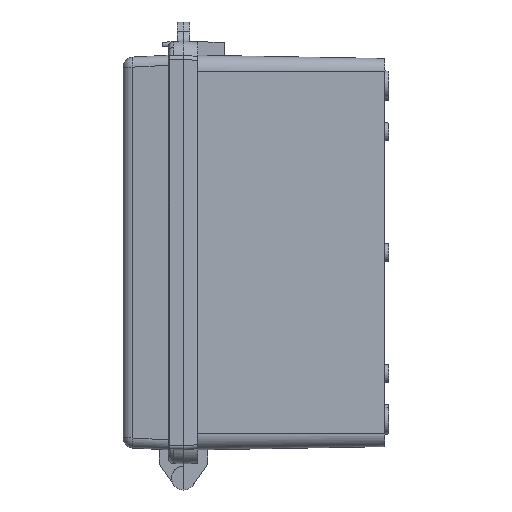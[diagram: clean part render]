
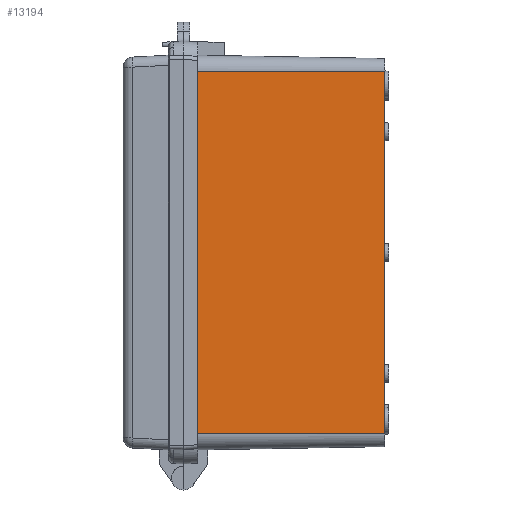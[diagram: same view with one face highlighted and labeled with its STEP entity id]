
A CAD part, left-side view. The second image highlights one B-rep face of the part: STEP entity #13194.
In plain terms, the highlighted planar face has unit normal (-1, -0.018, 0).
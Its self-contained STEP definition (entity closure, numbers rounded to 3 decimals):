
#416 = ORIENTED_EDGE ( 'NONE', *, *, #15612, .T. ) ;
#474 = VERTEX_POINT ( 'NONE', #12934 ) ;
#493 = ORIENTED_EDGE ( 'NONE', *, *, #18895, .T. ) ;
#581 = VERTEX_POINT ( 'NONE', #2179 ) ;
#612 = CARTESIAN_POINT ( 'NONE',  ( -98.07, -3., -99.993 ) ) ;
#626 = DIRECTION ( 'NONE',  ( 0., 0., -1. ) ) ;
#1004 = LINE ( 'NONE', #12498, #9282 ) ;
#1172 = ORIENTED_EDGE ( 'NONE', *, *, #9999, .T. ) ;
#1448 = CARTESIAN_POINT ( 'NONE',  ( -98., -7., -99.993 ) ) ;
#1619 = CARTESIAN_POINT ( 'NONE',  ( -98.07, -3., -78.6 ) ) ;
#1630 = CARTESIAN_POINT ( 'NONE',  ( -96.377, -100., 90.071 ) ) ;
#2047 = CARTESIAN_POINT ( 'NONE',  ( -98.07, -3., 90.071 ) ) ;
#2150 = DIRECTION ( 'NONE',  ( 0., 0., -1. ) ) ;
#2157 = ORIENTED_EDGE ( 'NONE', *, *, #8445, .T. ) ;
#2179 = CARTESIAN_POINT ( 'NONE',  ( -98.07, -3., -81.4 ) ) ;
#2875 = CARTESIAN_POINT ( 'NONE',  ( -98., -7., -81.05 ) ) ;
#2908 = EDGE_LOOP ( 'NONE', ( #3065, #3577, #13474, #6280, #7357, #20736, #1172, #15223, #13137, #416, #4181, #493, #10438, #8963, #2157, #16134 ) ) ;
#2913 = VERTEX_POINT ( 'NONE', #7591 ) ;
#2942 = CARTESIAN_POINT ( 'NONE',  ( -98.037, -4.857, -78.762 ) ) ;
#3049 = LINE ( 'NONE', #16117, #14544 ) ;
#3065 = ORIENTED_EDGE ( 'NONE', *, *, #14580, .T. ) ;
#3577 = ORIENTED_EDGE ( 'NONE', *, *, #4941, .T. ) ;
#4035 = DIRECTION ( 'NONE',  ( 0., 0., -1. ) ) ;
#4181 = ORIENTED_EDGE ( 'NONE', *, *, #6648, .T. ) ;
#4206 = VERTEX_POINT ( 'NONE', #18073 ) ;
#4688 = DIRECTION ( 'NONE',  ( 0., 0., -1. ) ) ;
#4690 = LINE ( 'NONE', #16355, #7332 ) ;
#4734 = DIRECTION ( 'NONE',  ( 0.017, -1., 0. ) ) ;
#4769 = FACE_OUTER_BOUND ( 'NONE', #2908, .T. ) ;
#4941 = EDGE_CURVE ( 'NONE', #12289, #581, #1004, .T. ) ;
#4959 = CARTESIAN_POINT ( 'NONE',  ( -98.07, -3., 1.4 ) ) ;
#5492 = DIRECTION ( 'NONE',  ( -0.017, 1., 0. ) ) ;
#5610 = LINE ( 'NONE', #20274, #15872 ) ;
#5702 = VECTOR ( 'NONE', #4035, 1000. ) ;
#5709 = DIRECTION ( 'NONE',  ( 0., 0., -1. ) ) ;
#6117 = CARTESIAN_POINT ( 'NONE',  ( -98.07, -3., -1.4 ) ) ;
#6280 = ORIENTED_EDGE ( 'NONE', *, *, #17613, .T. ) ;
#6480 = DIRECTION ( 'NONE',  ( 0.017, -0.996, -0.087 ) ) ;
#6648 = EDGE_CURVE ( 'NONE', #4206, #12103, #18444, .T. ) ;
#6790 = CARTESIAN_POINT ( 'NONE',  ( -98.07, -3., -99.993 ) ) ;
#6830 = CARTESIAN_POINT ( 'NONE',  ( -96.377, -100., -99.993 ) ) ;
#6967 = CARTESIAN_POINT ( 'NONE',  ( -97.795, -18.745, 80.022 ) ) ;
#7204 = CARTESIAN_POINT ( 'NONE',  ( -98.07, -3., 81.4 ) ) ;
#7332 = VECTOR ( 'NONE', #20948, 1000. ) ;
#7357 = ORIENTED_EDGE ( 'NONE', *, *, #11365, .F. ) ;
#7591 = CARTESIAN_POINT ( 'NONE',  ( -98., -7., 1.05 ) ) ;
#8292 = DIRECTION ( 'NONE',  ( 0., 0., -1. ) ) ;
#8351 = VERTEX_POINT ( 'NONE', #1619 ) ;
#8445 = EDGE_CURVE ( 'NONE', #19354, #8351, #20331, .T. ) ;
#8574 = EDGE_CURVE ( 'NONE', #9542, #19354, #4690, .T. ) ;
#8657 = LINE ( 'NONE', #6830, #18040 ) ;
#8925 = VECTOR ( 'NONE', #9483, 1000. ) ;
#8963 = ORIENTED_EDGE ( 'NONE', *, *, #8574, .T. ) ;
#9282 = VECTOR ( 'NONE', #19014, 1000. ) ;
#9483 = DIRECTION ( 'NONE',  ( 0.017, -0.996, -0.087 ) ) ;
#9542 = VERTEX_POINT ( 'NONE', #13323 ) ;
#9588 = VECTOR ( 'NONE', #4688, 1000. ) ;
#9611 = VERTEX_POINT ( 'NONE', #7204 ) ;
#9693 = DIRECTION ( 'NONE',  ( 0.017, -1., 0. ) ) ;
#9999 = EDGE_CURVE ( 'NONE', #19305, #9611, #10389, .T. ) ;
#10389 = LINE ( 'NONE', #612, #13890 ) ;
#10438 = ORIENTED_EDGE ( 'NONE', *, *, #20881, .T. ) ;
#11297 = CARTESIAN_POINT ( 'NONE',  ( -98.07, -3., -99.993 ) ) ;
#11365 = EDGE_CURVE ( 'NONE', #16001, #11633, #8657, .T. ) ;
#11406 = CARTESIAN_POINT ( 'NONE',  ( -97.916, -11.801, 0.63 ) ) ;
#11471 = EDGE_CURVE ( 'NONE', #15532, #474, #15591, .T. ) ;
#11633 = VERTEX_POINT ( 'NONE', #20416 ) ;
#11694 = DIRECTION ( 'NONE',  ( 0.017, -0.996, -0.087 ) ) ;
#11766 = DIRECTION ( 'NONE',  ( 0., 0., -1. ) ) ;
#11831 = EDGE_CURVE ( 'NONE', #16001, #19305, #20265, .T. ) ;
#11903 = LINE ( 'NONE', #13406, #15654 ) ;
#12084 = CARTESIAN_POINT ( 'NONE',  ( -98., -7., -99.993 ) ) ;
#12103 = VERTEX_POINT ( 'NONE', #4959 ) ;
#12220 = EDGE_CURVE ( 'NONE', #581, #15831, #11903, .T. ) ;
#12226 = VERTEX_POINT ( 'NONE', #16601 ) ;
#12245 = VECTOR ( 'NONE', #5492, 1000. ) ;
#12289 = VERTEX_POINT ( 'NONE', #2875 ) ;
#12498 = CARTESIAN_POINT ( 'NONE',  ( -98.098, -1.386, -81.541 ) ) ;
#12934 = CARTESIAN_POINT ( 'NONE',  ( -98., -7., 78.95 ) ) ;
#12971 = AXIS2_PLACEMENT_3D ( 'NONE', #11297, #14198, #9693 ) ;
#13137 = ORIENTED_EDGE ( 'NONE', *, *, #11471, .T. ) ;
#13194 = ADVANCED_FACE ( 'NONE', ( #4769 ), #16321, .T. ) ;
#13305 = LINE ( 'NONE', #6967, #16367 ) ;
#13323 = CARTESIAN_POINT ( 'NONE',  ( -98., -7., -1.05 ) ) ;
#13406 = CARTESIAN_POINT ( 'NONE',  ( -98.07, -3., -99.993 ) ) ;
#13474 = ORIENTED_EDGE ( 'NONE', *, *, #12220, .T. ) ;
#13890 = VECTOR ( 'NONE', #18831, 1000. ) ;
#14123 = VECTOR ( 'NONE', #2150, 1000. ) ;
#14198 = DIRECTION ( 'NONE',  ( -1., -0.017, 0. ) ) ;
#14519 = LINE ( 'NONE', #2942, #8925 ) ;
#14544 = VECTOR ( 'NONE', #16335, 1000. ) ;
#14580 = EDGE_CURVE ( 'NONE', #12226, #12289, #5610, .T. ) ;
#15223 = ORIENTED_EDGE ( 'NONE', *, *, #17697, .T. ) ;
#15532 = VERTEX_POINT ( 'NONE', #17631 ) ;
#15591 = LINE ( 'NONE', #12084, #5702 ) ;
#15612 = EDGE_CURVE ( 'NONE', #474, #4206, #3049, .T. ) ;
#15654 = VECTOR ( 'NONE', #626, 1000. ) ;
#15831 = VERTEX_POINT ( 'NONE', #18995 ) ;
#15869 = VECTOR ( 'NONE', #8292, 1000. ) ;
#15872 = VECTOR ( 'NONE', #5709, 1000. ) ;
#16001 = VERTEX_POINT ( 'NONE', #1630 ) ;
#16117 = CARTESIAN_POINT ( 'NONE',  ( -98.34, 12.501, 77.244 ) ) ;
#16134 = ORIENTED_EDGE ( 'NONE', *, *, #21176, .T. ) ;
#16135 = LINE ( 'NONE', #1448, #9588 ) ;
#16321 = PLANE ( 'NONE',  #12971 ) ;
#16335 = DIRECTION ( 'NONE',  ( -0.017, 0.996, -0.087 ) ) ;
#16355 = CARTESIAN_POINT ( 'NONE',  ( -98.219, 5.558, -2.149 ) ) ;
#16367 = VECTOR ( 'NONE', #11694, 1000. ) ;
#16405 = CARTESIAN_POINT ( 'NONE',  ( -98.07, -3., -99.993 ) ) ;
#16601 = CARTESIAN_POINT ( 'NONE',  ( -98., -7., -78.95 ) ) ;
#17480 = CARTESIAN_POINT ( 'NONE',  ( -98.07, -3., -90.071 ) ) ;
#17613 = EDGE_CURVE ( 'NONE', #15831, #11633, #19386, .T. ) ;
#17631 = CARTESIAN_POINT ( 'NONE',  ( -98., -7., 81.05 ) ) ;
#17697 = EDGE_CURVE ( 'NONE', #9611, #15532, #13305, .T. ) ;
#17822 = LINE ( 'NONE', #11406, #20441 ) ;
#18040 = VECTOR ( 'NONE', #11766, 1000. ) ;
#18073 = CARTESIAN_POINT ( 'NONE',  ( -98.07, -3., 78.6 ) ) ;
#18444 = LINE ( 'NONE', #6790, #14123 ) ;
#18831 = DIRECTION ( 'NONE',  ( 0., 0., -1. ) ) ;
#18895 = EDGE_CURVE ( 'NONE', #12103, #2913, #17822, .T. ) ;
#18995 = CARTESIAN_POINT ( 'NONE',  ( -98.07, -3., -90.071 ) ) ;
#19014 = DIRECTION ( 'NONE',  ( -0.017, 0.996, -0.087 ) ) ;
#19305 = VERTEX_POINT ( 'NONE', #20973 ) ;
#19354 = VERTEX_POINT ( 'NONE', #6117 ) ;
#19386 = LINE ( 'NONE', #17480, #21149 ) ;
#20265 = LINE ( 'NONE', #2047, #12245 ) ;
#20274 = CARTESIAN_POINT ( 'NONE',  ( -98., -7., -99.993 ) ) ;
#20331 = LINE ( 'NONE', #16405, #15869 ) ;
#20416 = CARTESIAN_POINT ( 'NONE',  ( -96.377, -100., -90.071 ) ) ;
#20441 = VECTOR ( 'NONE', #6480, 1000. ) ;
#20736 = ORIENTED_EDGE ( 'NONE', *, *, #11831, .T. ) ;
#20881 = EDGE_CURVE ( 'NONE', #2913, #9542, #16135, .T. ) ;
#20948 = DIRECTION ( 'NONE',  ( -0.017, 0.996, -0.087 ) ) ;
#20973 = CARTESIAN_POINT ( 'NONE',  ( -98.07, -3., 90.071 ) ) ;
#21149 = VECTOR ( 'NONE', #4734, 1000. ) ;
#21176 = EDGE_CURVE ( 'NONE', #8351, #12226, #14519, .T. ) ;
